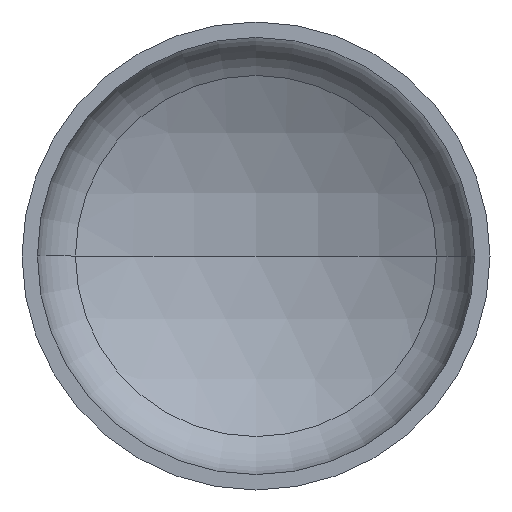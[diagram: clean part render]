
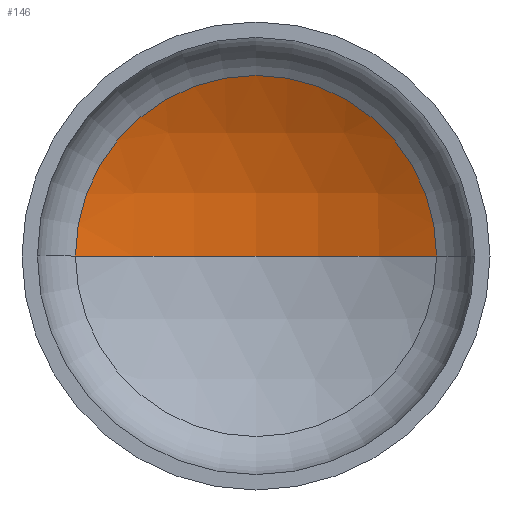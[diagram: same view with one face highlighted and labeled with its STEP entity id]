
A CAD part, front view. The second image highlights one B-rep face of the part: STEP entity #146.
In plain terms, the highlighted spherical face has radius 560 mm.
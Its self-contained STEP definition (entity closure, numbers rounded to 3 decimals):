
#14 = EDGE_LOOP ( 'NONE', ( #164, #102, #210 ) ) ;
#18 = DIRECTION ( 'NONE',  ( 1., 0., 0. ) ) ;
#22 = DIRECTION ( 'NONE',  ( 0., 0., 1. ) ) ;
#24 = AXIS2_PLACEMENT_3D ( 'NONE', #212, #177, #208 ) ;
#28 = VERTEX_POINT ( 'NONE', #257 ) ;
#32 = AXIS2_PLACEMENT_3D ( 'NONE', #406, #22, #18 ) ;
#35 = AXIS2_PLACEMENT_3D ( 'NONE', #371, #330, #222 ) ;
#41 = AXIS2_PLACEMENT_3D ( 'NONE', #203, #200, #201 ) ;
#85 = EDGE_CURVE ( 'NONE', #163, #217, #376, .T. ) ;
#89 = EDGE_CURVE ( 'NONE', #28, #163, #315, .T. ) ;
#90 = EDGE_CURVE ( 'NONE', #28, #217, #251, .T. ) ;
#102 = ORIENTED_EDGE ( 'NONE', *, *, #89, .T. ) ;
#146 = ADVANCED_FACE ( 'NONE', ( #309 ), #241, .F. ) ;
#163 = VERTEX_POINT ( 'NONE', #262 ) ;
#164 = ORIENTED_EDGE ( 'NONE', *, *, #90, .F. ) ;
#177 = DIRECTION ( 'NONE',  ( 0., 0., -1. ) ) ;
#200 = DIRECTION ( 'NONE',  ( 0., -1., 0. ) ) ;
#201 = DIRECTION ( 'NONE',  ( 1., 0., 0. ) ) ;
#203 = CARTESIAN_POINT ( 'NONE',  ( 0., 166.365, 0. ) ) ;
#208 = DIRECTION ( 'NONE',  ( -1., 0., 0. ) ) ;
#210 = ORIENTED_EDGE ( 'NONE', *, *, #85, .T. ) ;
#212 = CARTESIAN_POINT ( 'NONE',  ( 0., -324.222, 0. ) ) ;
#217 = VERTEX_POINT ( 'NONE', #258 ) ;
#222 = DIRECTION ( 'NONE',  ( -1., 0., 0. ) ) ;
#241 = SPHERICAL_SURFACE ( 'NONE', #24, 560. ) ;
#251 = CIRCLE ( 'NONE', #32, 560. ) ;
#257 = CARTESIAN_POINT ( 'NONE',  ( 0., 235.778, 0. ) ) ;
#258 = CARTESIAN_POINT ( 'NONE',  ( -270.044, 166.365, 0. ) ) ;
#262 = CARTESIAN_POINT ( 'NONE',  ( 270.044, 166.365, 0. ) ) ;
#309 = FACE_OUTER_BOUND ( 'NONE', #14, .T. ) ;
#315 = CIRCLE ( 'NONE', #35, 560. ) ;
#330 = DIRECTION ( 'NONE',  ( 0., 0., -1. ) ) ;
#371 = CARTESIAN_POINT ( 'NONE',  ( 0., -324.222, 0. ) ) ;
#376 = CIRCLE ( 'NONE', #41, 270.044 ) ;
#406 = CARTESIAN_POINT ( 'NONE',  ( 0., -324.222, 0. ) ) ;
